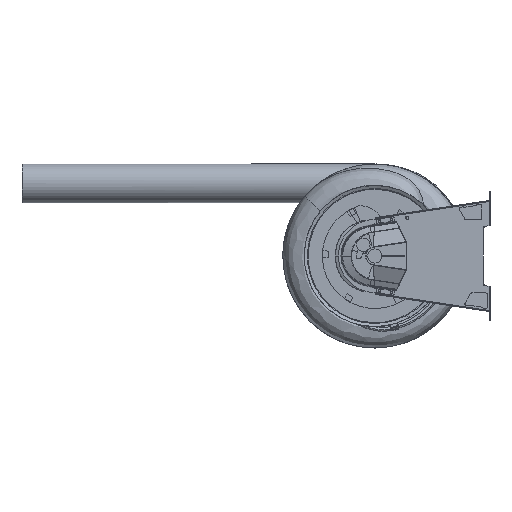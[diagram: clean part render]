
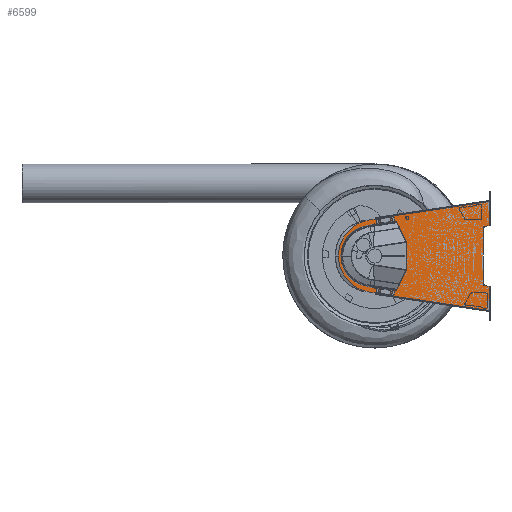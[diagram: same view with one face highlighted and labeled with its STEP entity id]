
A CAD part, left-side view. The second image highlights one B-rep face of the part: STEP entity #6599.
In plain terms, the highlighted planar face has unit normal (-1, 0, 0) as drawn and (1, 0, 0) by its records, which use the part's own axes.
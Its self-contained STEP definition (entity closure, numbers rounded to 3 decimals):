
#4503=DIRECTION('',(0.,0.,-1.));
#4504=VECTOR('',#4503,250.);
#4505=CARTESIAN_POINT('',(2.,-461.142,125.));
#4506=LINE('',#4505,#4504);
#4531=CARTESIAN_POINT('',(2.,0.,0.));
#4532=DIRECTION('',(-1.,0.,0.));
#4533=DIRECTION('',(0.,-1.,0.));
#4534=AXIS2_PLACEMENT_3D('',#4531,#4532,#4533);
#4539=CARTESIAN_POINT('',(2.,0.,0.));
#4540=DIRECTION('',(1.,0.,0.));
#4541=DIRECTION('',(0.,-1.,0.));
#4542=AXIS2_PLACEMENT_3D('',#4539,#4540,#4541);
#4547=DIRECTION('',(0.,-0.989,-0.149));
#4548=VECTOR('',#4547,3.105);
#4549=CARTESIAN_POINT('',(2.,23.07,-153.273));
#4550=LINE('',#4549,#4548);
#4554=DIRECTION('',(0.,-0.989,-0.149));
#4555=VECTOR('',#4554,6.895);
#4556=CARTESIAN_POINT('',(2.,20.,-153.736));
#4557=LINE('',#4556,#4555);
#4561=DIRECTION('',(0.,-0.989,-0.149));
#4562=VECTOR('',#4561,20.342);
#4563=CARTESIAN_POINT('',(2.,13.182,-154.762));
#4564=LINE('',#4563,#4562);
#4568=CARTESIAN_POINT('',(2.,-21.767,-160.022));
#4569=DIRECTION('',(-1.,0.,0.));
#4570=DIRECTION('',(0.,0.989,0.149));
#4571=AXIS2_PLACEMENT_3D('',#4568,#4569,#4570);
#4576=DIRECTION('',(0.,0.989,0.149));
#4577=VECTOR('',#4576,3.853);
#4578=CARTESIAN_POINT('',(2.,-486.,-231.92));
#4579=LINE('',#4578,#4577);
#4583=DIRECTION('',(0.,0.985,0.174));
#4584=VECTOR('',#4583,25.242);
#4585=CARTESIAN_POINT('',(2.,-486.,-129.383));
#4586=LINE('',#4585,#4584);
#4590=DIRECTION('',(0.,0.985,-0.174));
#4591=VECTOR('',#4590,25.242);
#4592=CARTESIAN_POINT('',(2.,-486.,129.383));
#4593=LINE('',#4592,#4591);
#4597=DIRECTION('',(0.,0.989,-0.149));
#4598=VECTOR('',#4597,3.853);
#4599=CARTESIAN_POINT('',(2.,-486.,231.92));
#4600=LINE('',#4599,#4598);
#4604=CARTESIAN_POINT('',(2.,-21.767,160.022));
#4605=DIRECTION('',(1.,0.,0.));
#4606=DIRECTION('',(0.,0.989,-0.149));
#4607=AXIS2_PLACEMENT_3D('',#4604,#4605,#4606);
#4612=DIRECTION('',(0.,-0.989,0.149));
#4613=VECTOR('',#4612,20.342);
#4614=CARTESIAN_POINT('',(2.,13.182,154.762));
#4615=LINE('',#4614,#4613);
#4619=DIRECTION('',(0.,-0.989,0.149));
#4620=VECTOR('',#4619,6.895);
#4621=CARTESIAN_POINT('',(2.,20.,153.736));
#4622=LINE('',#4621,#4620);
#4626=DIRECTION('',(0.,-0.989,0.149));
#4627=VECTOR('',#4626,3.105);
#4628=CARTESIAN_POINT('',(2.,23.07,153.273));
#4629=LINE('',#4628,#4627);
#4655=CARTESIAN_POINT('',(2.,0.,0.));
#4656=DIRECTION('',(1.,0.,0.));
#4657=DIRECTION('',(0.,0.149,-0.989));
#4658=AXIS2_PLACEMENT_3D('',#4655,#4656,#4657);
#4913=CARTESIAN_POINT('',(2.,-6.769,-159.787));
#4937=DIRECTION('',(0.,-0.989,-0.149));
#4938=VECTOR('',#4937,480.777);
#4939=CARTESIAN_POINT('',(2.,-6.769,-159.787));
#4940=LINE('',#4939,#4938);
#5039=DIRECTION('',(0.,0.,1.));
#5040=VECTOR('',#5039,102.537);
#5041=CARTESIAN_POINT('',(2.,-486.,-231.92));
#5042=LINE('',#5041,#5040);
#5601=CARTESIAN_POINT('',(2.,-6.769,159.787));
#5618=DIRECTION('',(0.,-0.989,0.149));
#5619=VECTOR('',#5618,480.777);
#5620=CARTESIAN_POINT('',(2.,-6.769,159.787));
#5621=LINE('',#5620,#5619);
#5815=DIRECTION('',(0.,0.,-1.));
#5816=VECTOR('',#5815,102.537);
#5817=CARTESIAN_POINT('',(2.,-486.,231.92));
#5818=LINE('',#5817,#5816);
#6215=CARTESIAN_POINT('',(2.,-33.,0.));
#6216=CARTESIAN_POINT('',(2.,33.,0.));
#6217=VERTEX_POINT('',#6215);
#6218=VERTEX_POINT('',#6216);
#6220=CARTESIAN_POINT('',(2.,23.07,153.273));
#6222=VERTEX_POINT('',#6220);
#6239=CARTESIAN_POINT('',(2.,-486.,231.92));
#6240=CARTESIAN_POINT('',(2.,-482.19,231.347));
#6241=VERTEX_POINT('',#6239);
#6242=VERTEX_POINT('',#6240);
#6293=CARTESIAN_POINT('',(2.,-486.,129.383));
#6294=VERTEX_POINT('',#6293);
#6296=CARTESIAN_POINT('',(2.,23.07,-153.273));
#6298=VERTEX_POINT('',#6296);
#6315=CARTESIAN_POINT('',(2.,-486.,-231.92));
#6316=CARTESIAN_POINT('',(2.,-482.19,-231.347));
#6317=VERTEX_POINT('',#6315);
#6318=VERTEX_POINT('',#6316);
#6356=CARTESIAN_POINT('',(2.,-486.,-129.383));
#6357=VERTEX_POINT('',#6356);
#6362=CARTESIAN_POINT('',(2.,-461.142,125.));
#6363=VERTEX_POINT('',#6362);
#6368=CARTESIAN_POINT('',(2.,-461.142,-125.));
#6369=VERTEX_POINT('',#6368);
#6378=CARTESIAN_POINT('',(2.,20.,153.736));
#6379=CARTESIAN_POINT('',(2.,13.182,154.762));
#6380=VERTEX_POINT('',#6378);
#6381=VERTEX_POINT('',#6379);
#6387=VERTEX_POINT('',#5601);
#6396=CARTESIAN_POINT('',(2.,20.,-153.736));
#6397=CARTESIAN_POINT('',(2.,13.182,-154.762));
#6398=VERTEX_POINT('',#6396);
#6399=VERTEX_POINT('',#6397);
#6405=VERTEX_POINT('',#4913);
#6424=CARTESIAN_POINT('',(2.,-6.934,157.79));
#6425=VERTEX_POINT('',#6424);
#6428=CARTESIAN_POINT('',(2.,-6.934,-157.79));
#6429=VERTEX_POINT('',#6428);
#6551=CARTESIAN_POINT('',(2.,0.,0.));
#6552=DIRECTION('',(1.,0.,0.));
#6553=DIRECTION('',(0.,0.,-1.));
#6554=AXIS2_PLACEMENT_3D('',#6551,#6552,#6553);
#6555=PLANE('',#6554);
#6557=ORIENTED_EDGE('',*,*,#6556,.F.);
#6559=ORIENTED_EDGE('',*,*,#6558,.T.);
#6561=ORIENTED_EDGE('',*,*,#6560,.T.);
#6563=ORIENTED_EDGE('',*,*,#6562,.T.);
#6565=ORIENTED_EDGE('',*,*,#6564,.T.);
#6567=ORIENTED_EDGE('',*,*,#6566,.T.);
#6569=ORIENTED_EDGE('',*,*,#6568,.F.);
#6571=ORIENTED_EDGE('',*,*,#6570,.T.);
#6573=ORIENTED_EDGE('',*,*,#6572,.T.);
#6574=ORIENTED_EDGE('',*,*,#6541,.F.);
#6576=ORIENTED_EDGE('',*,*,#6575,.F.);
#6578=ORIENTED_EDGE('',*,*,#6577,.F.);
#6580=ORIENTED_EDGE('',*,*,#6579,.T.);
#6582=ORIENTED_EDGE('',*,*,#6581,.F.);
#6584=ORIENTED_EDGE('',*,*,#6583,.F.);
#6586=ORIENTED_EDGE('',*,*,#6585,.F.);
#6588=ORIENTED_EDGE('',*,*,#6587,.F.);
#6590=ORIENTED_EDGE('',*,*,#6589,.F.);
#6591=EDGE_LOOP('',(#6557,#6559,#6561,#6563,#6565,#6567,#6569,#6571,#6573,#6574,
#6576,#6578,#6580,#6582,#6584,#6586,#6588,#6590));
#6592=FACE_OUTER_BOUND('',#6591,.F.);
#6594=ORIENTED_EDGE('',*,*,#6593,.F.);
#6596=ORIENTED_EDGE('',*,*,#6595,.T.);
#6597=EDGE_LOOP('',(#6594,#6596));
#6598=FACE_BOUND('',#6597,.F.);
#4535=CIRCLE('',#4534,33.);
#4543=CIRCLE('',#4542,33.);
#4572=CIRCLE('',#4571,15.);
#4608=CIRCLE('',#4607,15.);
#4659=CIRCLE('',#4658,155.);
#6541=EDGE_CURVE('',#6363,#6369,#4506,.T.);
#6556=EDGE_CURVE('',#6298,#6222,#4659,.T.);
#6558=EDGE_CURVE('',#6298,#6398,#4550,.T.);
#6560=EDGE_CURVE('',#6398,#6399,#4557,.T.);
#6562=EDGE_CURVE('',#6399,#6429,#4564,.T.);
#6564=EDGE_CURVE('',#6429,#6405,#4572,.T.);
#6566=EDGE_CURVE('',#6405,#6318,#4940,.T.);
#6568=EDGE_CURVE('',#6317,#6318,#4579,.T.);
#6570=EDGE_CURVE('',#6317,#6357,#5042,.T.);
#6572=EDGE_CURVE('',#6357,#6369,#4586,.T.);
#6575=EDGE_CURVE('',#6294,#6363,#4593,.T.);
#6577=EDGE_CURVE('',#6241,#6294,#5818,.T.);
#6579=EDGE_CURVE('',#6241,#6242,#4600,.T.);
#6581=EDGE_CURVE('',#6387,#6242,#5621,.T.);
#6583=EDGE_CURVE('',#6425,#6387,#4608,.T.);
#6585=EDGE_CURVE('',#6381,#6425,#4615,.T.);
#6587=EDGE_CURVE('',#6380,#6381,#4622,.T.);
#6589=EDGE_CURVE('',#6222,#6380,#4629,.T.);
#6593=EDGE_CURVE('',#6217,#6218,#4535,.T.);
#6595=EDGE_CURVE('',#6217,#6218,#4543,.T.);
#6599=ADVANCED_FACE('',(#6592,#6598),#6555,.T.);
